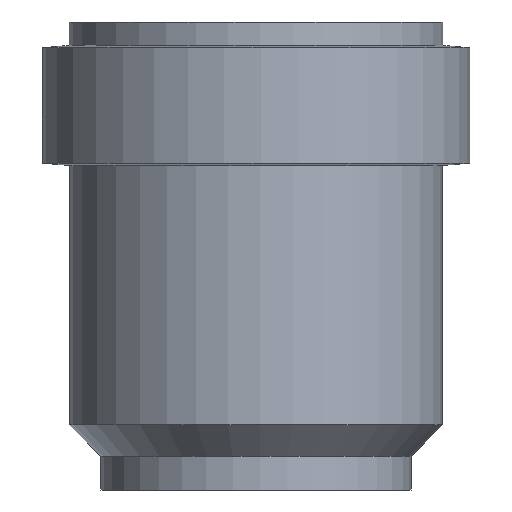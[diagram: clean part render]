
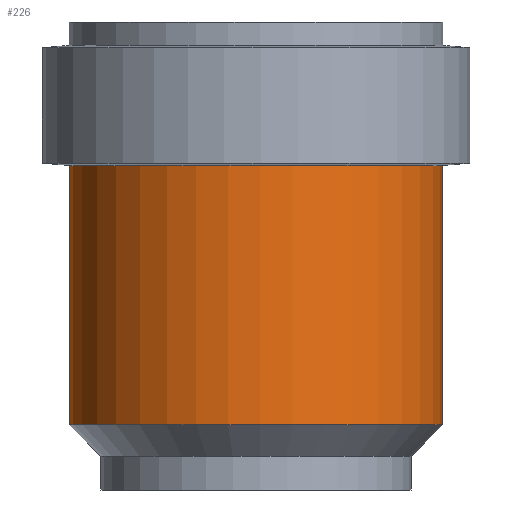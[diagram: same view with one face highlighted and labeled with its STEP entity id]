
A CAD part, front view. The second image highlights one B-rep face of the part: STEP entity #226.
In plain terms, the highlighted cylindrical face has radius 19.325 mm (diameter 38.65 mm), a full revolution.
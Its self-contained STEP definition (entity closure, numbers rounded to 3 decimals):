
#37=FACE_BOUND('',#87,.T.);
#55=FACE_OUTER_BOUND('',#86,.T.);
#86=EDGE_LOOP('',(#176));
#87=EDGE_LOOP('',(#177));
#103=CIRCLE('',#263,19.325);
#106=CIRCLE('',#267,19.325);
#121=VERTEX_POINT('',#381);
#124=VERTEX_POINT('',#388);
#139=EDGE_CURVE('',#121,#121,#103,.T.);
#142=EDGE_CURVE('',#124,#124,#106,.T.);
#176=ORIENTED_EDGE('',*,*,#139,.T.);
#177=ORIENTED_EDGE('',*,*,#142,.T.);
#193=CYLINDRICAL_SURFACE('',#281,19.325);
#226=ADVANCED_FACE('',(#55,#37),#193,.T.);
#263=AXIS2_PLACEMENT_3D('',#382,#313,#314);
#267=AXIS2_PLACEMENT_3D('',#389,#321,#322);
#281=AXIS2_PLACEMENT_3D('',#409,#349,#350);
#313=DIRECTION('center_axis',(0.,0.,1.));
#314=DIRECTION('ref_axis',(-0.878,0.479,0.));
#321=DIRECTION('center_axis',(0.,0.,-1.));
#322=DIRECTION('ref_axis',(-0.878,0.479,0.));
#349=DIRECTION('center_axis',(0.,0.,-1.));
#350=DIRECTION('ref_axis',(-0.878,0.479,0.));
#381=CARTESIAN_POINT('',(16.959,-9.265,-41.743));
#382=CARTESIAN_POINT('Origin',(0.,0.,-41.743));
#388=CARTESIAN_POINT('',(16.959,-9.265,-14.873));
#389=CARTESIAN_POINT('Origin',(0.,0.,-14.873));
#409=CARTESIAN_POINT('Origin',(0.,0.,-65.6));
